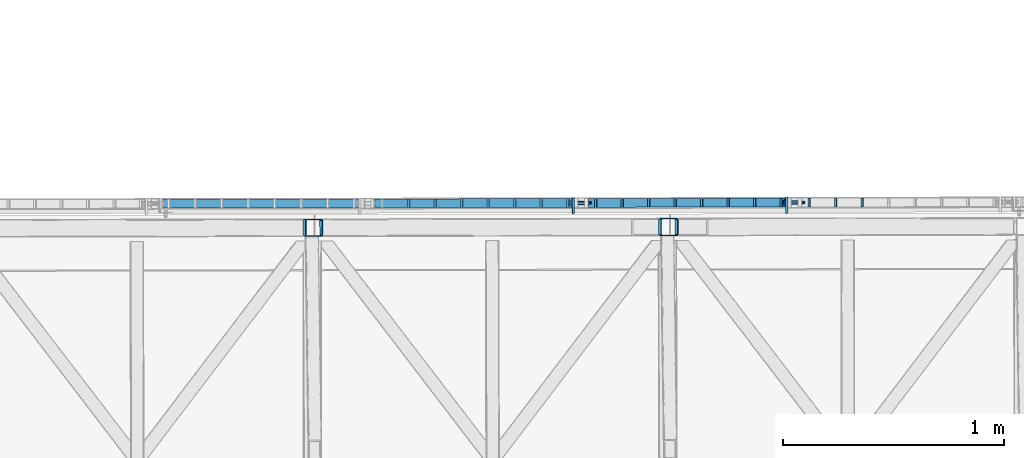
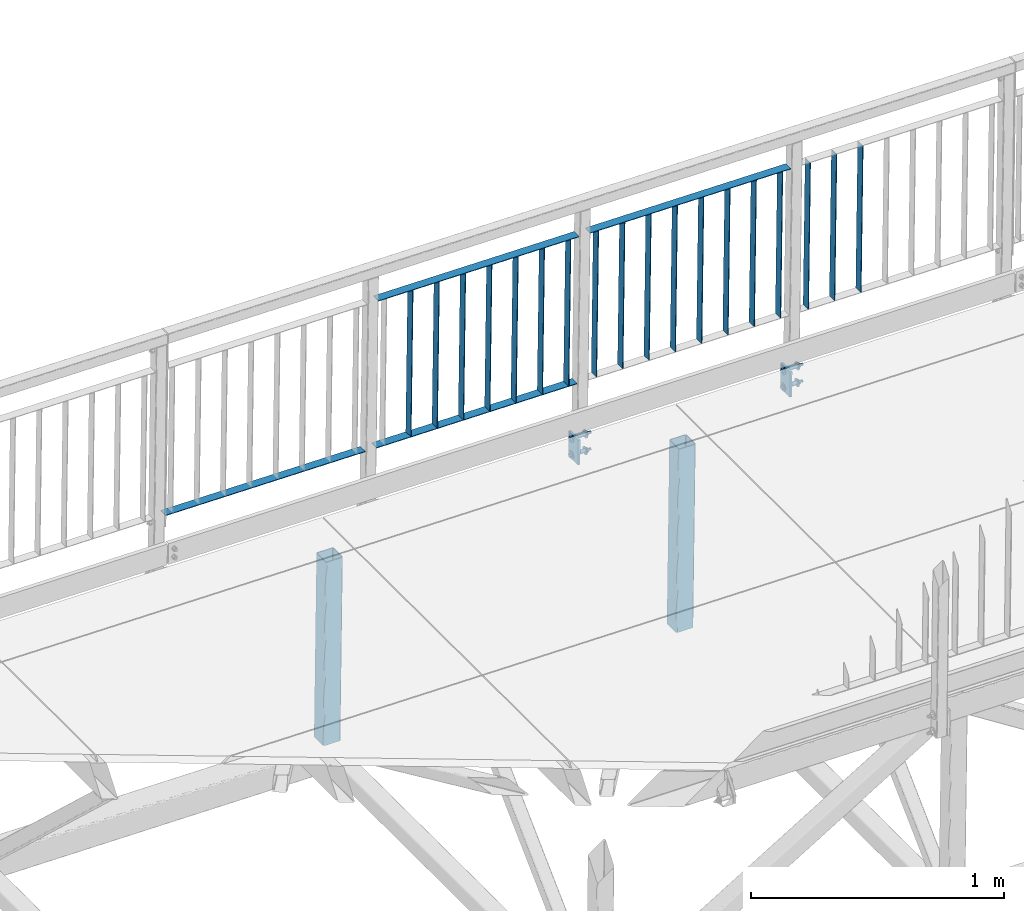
# One storey, part 116 of 169: 26 discrete accessories, 2 mechanical fasteners, 2 elements without a shape of their own.
"""IFC2X3 building model written with IfcOpenShell, lengths in millimetres."""

from ifc_helpers import new_model, si_unit, frame, origin_with_axes, origin_2d_with_axis, place, context, subcontext, project, spatial, polyline, rectangle, hollow_rectangle, circle, outline, extrude, boolean, clip, halfspace, source, transform, mapped, material, type_object, element, aggregate, save


model = new_model("IFC2X3")

# Units and contexts
model_context = context("Model", 3, precision=1e-05, world=origin_with_axes())
body_context = subcontext(model_context, "Body", "Model", "MODEL_VIEW")
ifc_project = project(units=[si_unit("LENGTHUNIT", "METRE", prefix="MILLI"), si_unit("AREAUNIT", "SQUARE_METRE"), si_unit("VOLUMEUNIT", "CUBIC_METRE"), si_unit("MASSUNIT", "GRAM", prefix="KILO"), si_unit("TIMEUNIT", "SECOND"), si_unit("PLANEANGLEUNIT", "RADIAN"), si_unit("SOLIDANGLEUNIT", "STERADIAN"), si_unit("THERMODYNAMICTEMPERATUREUNIT", "DEGREE_CELSIUS"), si_unit("LUMINOUSINTENSITYUNIT", "LUMEN")], contexts=[model_context])

# Site, building, storey
site_placement = place(None, origin_with_axes())
site = spatial("IfcSite", under=ifc_project, at=site_placement, Name="Undefined", CompositionType="ELEMENT")
building_placement = place(site_placement, origin_with_axes())
building = spatial("IfcBuilding", under=site, at=building_placement, Name="Undefined", CompositionType="ELEMENT")
storey_placement = place(building_placement, origin_with_axes())
storey = spatial("IfcBuildingStorey", under=building, at=storey_placement, Name="Undefined", CompositionType="ELEMENT", Elevation=0.0)

# Assembly, discrete accessories
assembly_1_placement = place(storey_placement, origin_with_axes())
assembly_1 = element("IfcElementAssembly", 1, at=assembly_1_placement, inside=storey, Name="Steel Assembly", AssemblyPlace="NOTDEFINED", PredefinedType="RIGID_FRAME")
ifc_material_1 = material(Name="STEEL/S235")
discrete_accessory_type_1 = type_object("IfcDiscreteAccessoryType", Name="BLACHA")
discrete_accessory_1_placement = place(assembly_1_placement, frame((13087.5121205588, 2329.42424205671, 13787.8230552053), z_axis=(0.9999174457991, 0.00186469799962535, -0.0127131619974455), x_axis=(-0.0018648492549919, 0.999998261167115, -4.2996762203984e-08)))
discrete_accessory_1 = element("IfcDiscreteAccessory", 2, at=discrete_accessory_1_placement, type_object=discrete_accessory_type_1, material=ifc_material_1, Name="BLACHA", ObjectType="BL10*120", context=body_context, shape_type="SweptSolid", body=[
    extrude(outline(polyline([(-5.35749222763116e-11, -59.9999999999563), (5.3567816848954e-11, 59.9999999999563), (75.0000002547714, 59.9999999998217), (75.0000002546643, -60.0000000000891), (-5.35749222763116e-11, -59.9999999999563)])), frame((-1.81898926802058e-12, -1.18000176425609e-16, -5.00000000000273), z_axis=(0.0, 0.0, 1.0), x_axis=(1.0, 0.0, 0.0)), (0.0, 0.0, 1.0), 10.0),
])
discrete_accessory_2_placement = place(assembly_1_placement, frame((12120.8974666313, 2327.62164980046, 13800.1127984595), z_axis=(0.9999174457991, 0.00186469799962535, -0.0127131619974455), x_axis=(-0.0018648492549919, 0.999998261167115, -4.2996762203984e-08)))
discrete_accessory_2 = element("IfcDiscreteAccessory", 3, at=discrete_accessory_2_placement, type_object=discrete_accessory_type_1, material=ifc_material_1, Name="BLACHA", ObjectType="BL10*120", context=body_context, shape_type="SweptSolid", body=[
    extrude(outline(polyline([(-5.35749222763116e-11, -59.9999999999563), (5.3567816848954e-11, 59.9999999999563), (75.0000002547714, 59.9999999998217), (75.0000002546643, -60.0000000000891), (-5.35749222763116e-11, -59.9999999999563)])), frame((-1.81898926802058e-12, -1.18000176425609e-16, -5.00000000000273), z_axis=(0.0, 0.0, 1.0), x_axis=(1.0, 0.0, 0.0)), (0.0, 0.0, 1.0), 10.0),
])
ifc_material_2 = material(Name="STEEL/S355")
discrete_accessory_type_2 = type_object("IfcDiscreteAccessoryType", Name="BEAM")
discrete_accessory_3_placement = place(assembly_1_placement, frame((12545.5935196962, 2268.41360533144, 12794.6336153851), z_axis=(-0.999917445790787, -0.00186469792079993, 0.0127131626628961), x_axis=(0.012713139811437, 2.3750999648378e-05, 0.999919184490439)))
discrete_accessory_3 = element("IfcDiscreteAccessory", 4, at=discrete_accessory_3_placement, type_object=discrete_accessory_type_2, material=ifc_material_2, Name="BEAM", ObjectType="K80/4", context=body_context, shape_type="Clipping", body=[
    clip(clip(extrude(hollow_rectangle(XDim=80.0, YDim=80.0, WallThickness=4.0, InnerFilletRadius=4.0, OuterFilletRadius=8.0, at=origin_2d_with_axis()), frame((940.000112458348, 4.54747487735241e-13, 0.0), z_axis=(-1.0, -3.46944695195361e-18, -1.38777878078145e-17), x_axis=(1.73472347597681e-18, -1.0, 0.0)), (0.0, 0.0, 1.0), 880.0), halfspace(frame((940.000112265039, -6.72889655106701e-09, 999.999999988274), z_axis=(-1.0, -3.46944695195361e-18, -1.38777878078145e-17), x_axis=(1.73472347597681e-18, -1.0, 0.0)), True)), halfspace(frame((60.0001122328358, 8.14088707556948e-09, 1000.00000001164), z_axis=(1.0, 0.0, 0.0), x_axis=(0.0, 1.0, 0.0)), True)),
])
discrete_accessory_4_placement = place(assembly_1_placement, frame((10935.7263906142, 2265.41144089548, 12815.1018064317), z_axis=(-0.999917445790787, -0.00186469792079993, 0.0127131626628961), x_axis=(0.012713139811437, 2.3750999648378e-05, 0.999919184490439)))
discrete_accessory_4 = element("IfcDiscreteAccessory", 5, at=discrete_accessory_4_placement, type_object=discrete_accessory_type_2, material=ifc_material_2, Name="BEAM", ObjectType="K80/4", context=body_context, shape_type="Clipping", body=[
    clip(clip(extrude(hollow_rectangle(XDim=80.0, YDim=80.0, WallThickness=4.0, InnerFilletRadius=4.0, OuterFilletRadius=8.0, at=origin_2d_with_axis()), frame((940.000112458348, 4.54747487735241e-13, 0.0), z_axis=(-1.0, -3.46944695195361e-18, -1.38777878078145e-17), x_axis=(1.73472347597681e-18, -1.0, 0.0)), (0.0, 0.0, 1.0), 880.0), halfspace(frame((940.000112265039, -6.72889655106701e-09, 999.999999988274), z_axis=(-1.0, -3.46944695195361e-18, -1.38777878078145e-17), x_axis=(1.73472347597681e-18, -1.0, 0.0)), True)), halfspace(frame((60.0001122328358, 8.14088707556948e-09, 1000.00000001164), z_axis=(1.0, 0.0, 0.0), x_axis=(0.0, 1.0, 0.0)), True)),
])
aggregate(assembly_1, [discrete_accessory_1, discrete_accessory_2, discrete_accessory_3, discrete_accessory_4])

# Assembly, discrete accessories, mechanical fasteners
assembly_2_placement = place(storey_placement, origin_with_axes())
assembly_2 = element("IfcElementAssembly", 6, at=assembly_2_placement, inside=storey, Name="Steel Assembly", AssemblyPlace="NOTDEFINED", PredefinedType="RIGID_FRAME")
discrete_accessory_type_3 = type_object("IfcDiscreteAccessoryType", Name="PORĘCZ")
discrete_accessory_5_placement = place(assembly_2_placement, frame((11197.0909307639, 2375.89901849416, 14826.939116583), z_axis=(-0.012713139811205, -2.37511238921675e-05, -0.999919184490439), x_axis=(0.9999174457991, 0.00186469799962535, -0.0127131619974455)))
discrete_accessory_5 = element("IfcDiscreteAccessory", 7, at=discrete_accessory_5_placement, type_object=discrete_accessory_type_3, material=ifc_material_1, Name="PORĘCZ", ObjectType="BL40*3", context=body_context, shape_type="CSG", body=[
    boolean("DIFFERENCE", boolean("DIFFERENCE", extrude(outline(polyline([(25.4999999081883, 20.0000000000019), (941.194458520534, 20.0000000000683), (941.194458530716, -19.9999999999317), (25.499999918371, -19.9999999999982), (25.4999999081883, 20.0000000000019)])), frame((1.81898940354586e-12, -1.77635442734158e-15, -1.50000000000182), z_axis=(0.0, 0.0, 1.0), x_axis=(1.0, 0.0, 0.0)), (0.0, 0.0, 1.0), 3.0), extrude(rectangle(XDim=51.0, YDim=51.0, at=origin_2d_with_axis()), frame((-5.94487782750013e-08, -4.65977194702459e-09, -139.999999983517), z_axis=(0.0, 0.0, 1.0), x_axis=(1.0, 0.0, 0.0)), (0.0, 0.0, 1.0), 280.0)), extrude(rectangle(XDim=51.0, YDim=51.0, at=origin_2d_with_axis()), frame((966.694458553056, -6.96000839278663e-09, -139.999999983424), z_axis=(0.0, 0.0, 1.0), x_axis=(1.0, 0.0, 0.0)), (0.0, 0.0, 1.0), 280.0)),
])
discrete_accessory_6_placement = place(assembly_2_placement, frame((12163.7055846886, 2377.70161171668, 14814.6493733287), z_axis=(-0.012713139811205, -2.37511238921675e-05, -0.999919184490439), x_axis=(0.9999174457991, 0.00186469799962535, -0.0127131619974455)))
discrete_accessory_6 = element("IfcDiscreteAccessory", 8, at=discrete_accessory_6_placement, type_object=discrete_accessory_type_3, material=ifc_material_1, Name="PORĘCZ", ObjectType="BL40*3", context=body_context, shape_type="CSG", body=[
    boolean("DIFFERENCE", boolean("DIFFERENCE", extrude(outline(polyline([(25.4999999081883, 20.0000000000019), (941.194458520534, 20.0000000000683), (941.194458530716, -19.9999999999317), (25.499999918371, -19.9999999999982), (25.4999999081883, 20.0000000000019)])), frame((1.81898940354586e-12, -1.77635442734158e-15, -1.50000000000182), z_axis=(0.0, 0.0, 1.0), x_axis=(1.0, 0.0, 0.0)), (0.0, 0.0, 1.0), 3.0), extrude(rectangle(XDim=51.0, YDim=51.0, at=origin_2d_with_axis()), frame((-5.94487782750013e-08, -4.65977194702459e-09, -139.999999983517), z_axis=(0.0, 0.0, 1.0), x_axis=(1.0, 0.0, 0.0)), (0.0, 0.0, 1.0), 280.0)), extrude(rectangle(XDim=51.0, YDim=51.0, at=origin_2d_with_axis()), frame((966.694458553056, -6.96000839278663e-09, -139.999999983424), z_axis=(0.0, 0.0, 1.0), x_axis=(1.0, 0.0, 0.0)), (0.0, 0.0, 1.0), 280.0)),
])
discrete_accessory_7_placement = place(assembly_2_placement, frame((11382.2664291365, 2376.2443496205, 14969.5964752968), z_axis=(0.00186484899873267, -0.999998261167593, 4.28757666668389e-08), x_axis=(-0.012713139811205, -2.37511238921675e-05, -0.999919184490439)))
discrete_accessory_7 = element("IfcDiscreteAccessory", 9, at=discrete_accessory_7_placement, type_object=discrete_accessory_type_3, material=ifc_material_1, Name="PORĘCZ", ObjectType="BL40*3", context=body_context, shape_type="Clipping", body=[
    clip(clip(extrude(rectangle(XDim=3.0, YDim=40.0, at=origin_2d_with_axis()), frame((848.500000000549, 1.47191286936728e-15, -8.89750592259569e-16), z_axis=(-1.0, -3.46944695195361e-18, -1.38777878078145e-17), x_axis=(1.73472347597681e-18, -1.0, 0.0)), (0.0, 0.0, 1.0), 702.0), halfspace(frame((848.499999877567, 4.522007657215e-09, 1000.00000000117), z_axis=(-1.0, -3.46944695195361e-18, -1.38777878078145e-17), x_axis=(1.73472347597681e-18, -1.0, 0.0)), True)), halfspace(frame((146.499999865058, 4.97311702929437e-09, 1000.00000000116), z_axis=(1.0, 0.0, 0.0), x_axis=(0.0, 1.0, 0.0)), True)),
])
discrete_accessory_8_placement = place(assembly_2_placement, frame((11502.2565226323, 2376.46811338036, 14968.0708958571), z_axis=(0.00186484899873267, -0.999998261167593, 4.28757666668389e-08), x_axis=(-0.012713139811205, -2.37511238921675e-05, -0.999919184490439)))
discrete_accessory_8 = element("IfcDiscreteAccessory", 10, at=discrete_accessory_8_placement, type_object=discrete_accessory_type_3, material=ifc_material_1, Name="PORĘCZ", ObjectType="BL40*3", context=body_context, shape_type="Clipping", body=[
    clip(clip(extrude(rectangle(XDim=3.0, YDim=40.0, at=origin_2d_with_axis()), frame((848.500000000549, 1.47191286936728e-15, -8.89750592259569e-16), z_axis=(-1.0, -3.46944695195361e-18, -1.38777878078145e-17), x_axis=(1.73472347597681e-18, -1.0, 0.0)), (0.0, 0.0, 1.0), 702.0), halfspace(frame((848.499999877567, 4.522007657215e-09, 1000.00000000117), z_axis=(-1.0, -3.46944695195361e-18, -1.38777878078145e-17), x_axis=(1.73472347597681e-18, -1.0, 0.0)), True)), halfspace(frame((146.499999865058, 4.97311702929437e-09, 1000.00000000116), z_axis=(1.0, 0.0, 0.0), x_axis=(0.0, 1.0, 0.0)), True)),
])
discrete_accessory_9_placement = place(assembly_2_placement, frame((11622.2466161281, 2376.69187714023, 14966.5453164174), z_axis=(0.00186484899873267, -0.999998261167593, 4.28757666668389e-08), x_axis=(-0.012713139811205, -2.37511238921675e-05, -0.999919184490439)))
discrete_accessory_9 = element("IfcDiscreteAccessory", 11, at=discrete_accessory_9_placement, type_object=discrete_accessory_type_3, material=ifc_material_1, Name="PORĘCZ", ObjectType="BL40*3", context=body_context, shape_type="Clipping", body=[
    clip(clip(extrude(rectangle(XDim=3.0, YDim=40.0, at=origin_2d_with_axis()), frame((848.500000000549, 1.47191286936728e-15, -8.89750592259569e-16), z_axis=(-1.0, -3.46944695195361e-18, -1.38777878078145e-17), x_axis=(1.73472347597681e-18, -1.0, 0.0)), (0.0, 0.0, 1.0), 702.0), halfspace(frame((848.499999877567, 4.522007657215e-09, 1000.00000000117), z_axis=(-1.0, -3.46944695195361e-18, -1.38777878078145e-17), x_axis=(1.73472347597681e-18, -1.0, 0.0)), True)), halfspace(frame((146.499999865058, 4.97311702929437e-09, 1000.00000000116), z_axis=(1.0, 0.0, 0.0), x_axis=(0.0, 1.0, 0.0)), True)),
])
discrete_accessory_10_placement = place(assembly_2_placement, frame((11742.236709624, 2376.91564090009, 14965.0197369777), z_axis=(0.00186484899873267, -0.999998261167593, 4.28757666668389e-08), x_axis=(-0.012713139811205, -2.37511238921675e-05, -0.999919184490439)))
discrete_accessory_10 = element("IfcDiscreteAccessory", 12, at=discrete_accessory_10_placement, type_object=discrete_accessory_type_3, material=ifc_material_1, Name="PORĘCZ", ObjectType="BL40*3", context=body_context, shape_type="Clipping", body=[
    clip(clip(extrude(rectangle(XDim=3.0, YDim=40.0, at=origin_2d_with_axis()), frame((848.500000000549, 1.47191286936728e-15, -8.89750592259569e-16), z_axis=(-1.0, -3.46944695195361e-18, -1.38777878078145e-17), x_axis=(1.73472347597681e-18, -1.0, 0.0)), (0.0, 0.0, 1.0), 702.0), halfspace(frame((848.499999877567, 4.522007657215e-09, 1000.00000000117), z_axis=(-1.0, -3.46944695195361e-18, -1.38777878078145e-17), x_axis=(1.73472347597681e-18, -1.0, 0.0)), True)), halfspace(frame((146.499999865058, 4.97311702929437e-09, 1000.00000000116), z_axis=(1.0, 0.0, 0.0), x_axis=(0.0, 1.0, 0.0)), True)),
])
discrete_accessory_11_placement = place(assembly_2_placement, frame((11862.2268031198, 2377.13940465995, 14963.494157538), z_axis=(0.00186484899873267, -0.999998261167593, 4.28757666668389e-08), x_axis=(-0.012713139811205, -2.37511238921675e-05, -0.999919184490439)))
discrete_accessory_11 = element("IfcDiscreteAccessory", 13, at=discrete_accessory_11_placement, type_object=discrete_accessory_type_3, material=ifc_material_1, Name="PORĘCZ", ObjectType="BL40*3", context=body_context, shape_type="Clipping", body=[
    clip(clip(extrude(rectangle(XDim=3.0, YDim=40.0, at=origin_2d_with_axis()), frame((848.500000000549, 1.47191286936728e-15, -8.89750592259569e-16), z_axis=(-1.0, -3.46944695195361e-18, -1.38777878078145e-17), x_axis=(1.73472347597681e-18, -1.0, 0.0)), (0.0, 0.0, 1.0), 702.0), halfspace(frame((848.499999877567, 4.522007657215e-09, 1000.00000000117), z_axis=(-1.0, -3.46944695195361e-18, -1.38777878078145e-17), x_axis=(1.73472347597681e-18, -1.0, 0.0)), True)), halfspace(frame((146.499999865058, 4.97311702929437e-09, 1000.00000000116), z_axis=(1.0, 0.0, 0.0), x_axis=(0.0, 1.0, 0.0)), True)),
])
discrete_accessory_12_placement = place(assembly_2_placement, frame((11982.2168966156, 2377.36316841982, 14961.9685780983), z_axis=(0.00186484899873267, -0.999998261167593, 4.28757666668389e-08), x_axis=(-0.012713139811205, -2.37511238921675e-05, -0.999919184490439)))
discrete_accessory_12 = element("IfcDiscreteAccessory", 14, at=discrete_accessory_12_placement, type_object=discrete_accessory_type_3, material=ifc_material_1, Name="PORĘCZ", ObjectType="BL40*3", context=body_context, shape_type="Clipping", body=[
    clip(clip(extrude(rectangle(XDim=3.0, YDim=40.0, at=origin_2d_with_axis()), frame((848.500000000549, 1.47191286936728e-15, -8.89750592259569e-16), z_axis=(-1.0, -3.46944695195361e-18, -1.38777878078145e-17), x_axis=(1.73472347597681e-18, -1.0, 0.0)), (0.0, 0.0, 1.0), 702.0), halfspace(frame((848.499999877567, 4.522007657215e-09, 1000.00000000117), z_axis=(-1.0, -3.46944695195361e-18, -1.38777878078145e-17), x_axis=(1.73472347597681e-18, -1.0, 0.0)), True)), halfspace(frame((146.499999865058, 4.97311702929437e-09, 1000.00000000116), z_axis=(1.0, 0.0, 0.0), x_axis=(0.0, 1.0, 0.0)), True)),
])
discrete_accessory_13_placement = place(assembly_2_placement, frame((12102.2069901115, 2377.58693217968, 14960.4429986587), z_axis=(0.00186484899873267, -0.999998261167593, 4.28757666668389e-08), x_axis=(-0.012713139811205, -2.37511238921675e-05, -0.999919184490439)))
discrete_accessory_13 = element("IfcDiscreteAccessory", 15, at=discrete_accessory_13_placement, type_object=discrete_accessory_type_3, material=ifc_material_1, Name="PORĘCZ", ObjectType="BL40*3", context=body_context, shape_type="Clipping", body=[
    clip(clip(extrude(rectangle(XDim=3.0, YDim=40.0, at=origin_2d_with_axis()), frame((848.500000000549, 1.47191286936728e-15, -8.89750592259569e-16), z_axis=(-1.0, -3.46944695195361e-18, -1.38777878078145e-17), x_axis=(1.73472347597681e-18, -1.0, 0.0)), (0.0, 0.0, 1.0), 702.0), halfspace(frame((848.499999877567, 4.522007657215e-09, 1000.00000000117), z_axis=(-1.0, -3.46944695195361e-18, -1.38777878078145e-17), x_axis=(1.73472347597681e-18, -1.0, 0.0)), True)), halfspace(frame((146.499999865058, 4.97311702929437e-09, 1000.00000000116), z_axis=(1.0, 0.0, 0.0), x_axis=(0.0, 1.0, 0.0)), True)),
])
discrete_accessory_14_placement = place(assembly_2_placement, frame((12228.890989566, 2377.82317908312, 14958.8323114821), z_axis=(0.00186484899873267, -0.999998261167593, 4.28757666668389e-08), x_axis=(-0.012713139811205, -2.37511238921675e-05, -0.999919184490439)))
discrete_accessory_14 = element("IfcDiscreteAccessory", 16, at=discrete_accessory_14_placement, type_object=discrete_accessory_type_3, material=ifc_material_1, Name="PORĘCZ", ObjectType="BL40*3", context=body_context, shape_type="Clipping", body=[
    clip(clip(extrude(rectangle(XDim=3.0, YDim=40.0, at=origin_2d_with_axis()), frame((848.500000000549, 1.47191286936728e-15, -8.89750592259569e-16), z_axis=(-1.0, -3.46944695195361e-18, -1.38777878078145e-17), x_axis=(1.73472347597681e-18, -1.0, 0.0)), (0.0, 0.0, 1.0), 702.0), halfspace(frame((848.499999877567, 4.522007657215e-09, 1000.00000000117), z_axis=(-1.0, -3.46944695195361e-18, -1.38777878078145e-17), x_axis=(1.73472347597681e-18, -1.0, 0.0)), True)), halfspace(frame((146.499999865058, 4.97311702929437e-09, 1000.00000000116), z_axis=(1.0, 0.0, 0.0), x_axis=(0.0, 1.0, 0.0)), True)),
])
discrete_accessory_15_placement = place(assembly_2_placement, frame((12348.8810830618, 2378.04694284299, 14957.3067320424), z_axis=(0.00186484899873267, -0.999998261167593, 4.28757666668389e-08), x_axis=(-0.012713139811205, -2.37511238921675e-05, -0.999919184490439)))
discrete_accessory_15 = element("IfcDiscreteAccessory", 17, at=discrete_accessory_15_placement, type_object=discrete_accessory_type_3, material=ifc_material_1, Name="PORĘCZ", ObjectType="BL40*3", context=body_context, shape_type="Clipping", body=[
    clip(clip(extrude(rectangle(XDim=3.0, YDim=40.0, at=origin_2d_with_axis()), frame((848.500000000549, 1.47191286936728e-15, -8.89750592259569e-16), z_axis=(-1.0, -3.46944695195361e-18, -1.38777878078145e-17), x_axis=(1.73472347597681e-18, -1.0, 0.0)), (0.0, 0.0, 1.0), 702.0), halfspace(frame((848.499999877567, 4.522007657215e-09, 1000.00000000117), z_axis=(-1.0, -3.46944695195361e-18, -1.38777878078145e-17), x_axis=(1.73472347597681e-18, -1.0, 0.0)), True)), halfspace(frame((146.499999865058, 4.97311702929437e-09, 1000.00000000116), z_axis=(1.0, 0.0, 0.0), x_axis=(0.0, 1.0, 0.0)), True)),
])
discrete_accessory_16_placement = place(assembly_2_placement, frame((12468.8711765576, 2378.27070660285, 14955.7811526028), z_axis=(0.00186484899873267, -0.999998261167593, 4.28757666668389e-08), x_axis=(-0.012713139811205, -2.37511238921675e-05, -0.999919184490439)))
discrete_accessory_16 = element("IfcDiscreteAccessory", 18, at=discrete_accessory_16_placement, type_object=discrete_accessory_type_3, material=ifc_material_1, Name="PORĘCZ", ObjectType="BL40*3", context=body_context, shape_type="Clipping", body=[
    clip(clip(extrude(rectangle(XDim=3.0, YDim=40.0, at=origin_2d_with_axis()), frame((848.500000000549, 1.47191286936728e-15, -8.89750592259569e-16), z_axis=(-1.0, -3.46944695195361e-18, -1.38777878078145e-17), x_axis=(1.73472347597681e-18, -1.0, 0.0)), (0.0, 0.0, 1.0), 702.0), halfspace(frame((848.499999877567, 4.522007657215e-09, 1000.00000000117), z_axis=(-1.0, -3.46944695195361e-18, -1.38777878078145e-17), x_axis=(1.73472347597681e-18, -1.0, 0.0)), True)), halfspace(frame((146.499999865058, 4.97311702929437e-09, 1000.00000000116), z_axis=(1.0, 0.0, 0.0), x_axis=(0.0, 1.0, 0.0)), True)),
])
discrete_accessory_17_placement = place(assembly_2_placement, frame((12588.8612700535, 2378.49447036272, 14954.2555731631), z_axis=(0.00186484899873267, -0.999998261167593, 4.28757666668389e-08), x_axis=(-0.012713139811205, -2.37511238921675e-05, -0.999919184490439)))
discrete_accessory_17 = element("IfcDiscreteAccessory", 19, at=discrete_accessory_17_placement, type_object=discrete_accessory_type_3, material=ifc_material_1, Name="PORĘCZ", ObjectType="BL40*3", context=body_context, shape_type="Clipping", body=[
    clip(clip(extrude(rectangle(XDim=3.0, YDim=40.0, at=origin_2d_with_axis()), frame((848.500000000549, 1.47191286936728e-15, -8.89750592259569e-16), z_axis=(-1.0, -3.46944695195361e-18, -1.38777878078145e-17), x_axis=(1.73472347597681e-18, -1.0, 0.0)), (0.0, 0.0, 1.0), 702.0), halfspace(frame((848.499999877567, 4.522007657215e-09, 1000.00000000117), z_axis=(-1.0, -3.46944695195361e-18, -1.38777878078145e-17), x_axis=(1.73472347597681e-18, -1.0, 0.0)), True)), halfspace(frame((146.499999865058, 4.97311702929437e-09, 1000.00000000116), z_axis=(1.0, 0.0, 0.0), x_axis=(0.0, 1.0, 0.0)), True)),
])
discrete_accessory_18_placement = place(assembly_2_placement, frame((12708.8513635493, 2378.71823412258, 14952.7299937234), z_axis=(0.00186484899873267, -0.999998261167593, 4.28757666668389e-08), x_axis=(-0.012713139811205, -2.37511238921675e-05, -0.999919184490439)))
discrete_accessory_18 = element("IfcDiscreteAccessory", 20, at=discrete_accessory_18_placement, type_object=discrete_accessory_type_3, material=ifc_material_1, Name="PORĘCZ", ObjectType="BL40*3", context=body_context, shape_type="Clipping", body=[
    clip(clip(extrude(rectangle(XDim=3.0, YDim=40.0, at=origin_2d_with_axis()), frame((848.500000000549, 1.47191286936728e-15, -8.89750592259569e-16), z_axis=(-1.0, -3.46944695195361e-18, -1.38777878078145e-17), x_axis=(1.73472347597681e-18, -1.0, 0.0)), (0.0, 0.0, 1.0), 702.0), halfspace(frame((848.499999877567, 4.522007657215e-09, 1000.00000000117), z_axis=(-1.0, -3.46944695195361e-18, -1.38777878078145e-17), x_axis=(1.73472347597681e-18, -1.0, 0.0)), True)), halfspace(frame((146.499999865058, 4.97311702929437e-09, 1000.00000000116), z_axis=(1.0, 0.0, 0.0), x_axis=(0.0, 1.0, 0.0)), True)),
])
discrete_accessory_19_placement = place(assembly_2_placement, frame((12828.8414570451, 2378.94199788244, 14951.2044142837), z_axis=(0.00186484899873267, -0.999998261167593, 4.28757666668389e-08), x_axis=(-0.012713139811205, -2.37511238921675e-05, -0.999919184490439)))
discrete_accessory_19 = element("IfcDiscreteAccessory", 21, at=discrete_accessory_19_placement, type_object=discrete_accessory_type_3, material=ifc_material_1, Name="PORĘCZ", ObjectType="BL40*3", context=body_context, shape_type="Clipping", body=[
    clip(clip(extrude(rectangle(XDim=3.0, YDim=40.0, at=origin_2d_with_axis()), frame((848.500000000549, 1.47191286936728e-15, -8.89750592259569e-16), z_axis=(-1.0, -3.46944695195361e-18, -1.38777878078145e-17), x_axis=(1.73472347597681e-18, -1.0, 0.0)), (0.0, 0.0, 1.0), 702.0), halfspace(frame((848.499999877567, 4.522007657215e-09, 1000.00000000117), z_axis=(-1.0, -3.46944695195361e-18, -1.38777878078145e-17), x_axis=(1.73472347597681e-18, -1.0, 0.0)), True)), halfspace(frame((146.499999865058, 4.97311702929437e-09, 1000.00000000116), z_axis=(1.0, 0.0, 0.0), x_axis=(0.0, 1.0, 0.0)), True)),
])
discrete_accessory_20_placement = place(assembly_2_placement, frame((12948.8315505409, 2379.16576164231, 14949.678834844), z_axis=(0.00186484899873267, -0.999998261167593, 4.28757666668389e-08), x_axis=(-0.012713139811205, -2.37511238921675e-05, -0.999919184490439)))
discrete_accessory_20 = element("IfcDiscreteAccessory", 22, at=discrete_accessory_20_placement, type_object=discrete_accessory_type_3, material=ifc_material_1, Name="PORĘCZ", ObjectType="BL40*3", context=body_context, shape_type="Clipping", body=[
    clip(clip(extrude(rectangle(XDim=3.0, YDim=40.0, at=origin_2d_with_axis()), frame((848.500000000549, 1.47191286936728e-15, -8.89750592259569e-16), z_axis=(-1.0, -3.46944695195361e-18, -1.38777878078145e-17), x_axis=(1.73472347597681e-18, -1.0, 0.0)), (0.0, 0.0, 1.0), 702.0), halfspace(frame((848.499999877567, 4.522007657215e-09, 1000.00000000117), z_axis=(-1.0, -3.46944695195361e-18, -1.38777878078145e-17), x_axis=(1.73472347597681e-18, -1.0, 0.0)), True)), halfspace(frame((146.499999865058, 4.97311702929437e-09, 1000.00000000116), z_axis=(1.0, 0.0, 0.0), x_axis=(0.0, 1.0, 0.0)), True)),
])
discrete_accessory_21_placement = place(assembly_2_placement, frame((13068.8216440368, 2379.38952540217, 14948.1532554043), z_axis=(0.00186484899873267, -0.999998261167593, 4.28757666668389e-08), x_axis=(-0.012713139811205, -2.37511238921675e-05, -0.999919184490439)))
discrete_accessory_21 = element("IfcDiscreteAccessory", 23, at=discrete_accessory_21_placement, type_object=discrete_accessory_type_3, material=ifc_material_1, Name="PORĘCZ", ObjectType="BL40*3", context=body_context, shape_type="Clipping", body=[
    clip(clip(extrude(rectangle(XDim=3.0, YDim=40.0, at=origin_2d_with_axis()), frame((848.500000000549, 1.47191286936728e-15, -8.89750592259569e-16), z_axis=(-1.0, -3.46944695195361e-18, -1.38777878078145e-17), x_axis=(1.73472347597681e-18, -1.0, 0.0)), (0.0, 0.0, 1.0), 702.0), halfspace(frame((848.499999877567, 4.522007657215e-09, 1000.00000000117), z_axis=(-1.0, -3.46944695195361e-18, -1.38777878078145e-17), x_axis=(1.73472347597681e-18, -1.0, 0.0)), True)), halfspace(frame((146.499999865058, 4.97311702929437e-09, 1000.00000000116), z_axis=(1.0, 0.0, 0.0), x_axis=(0.0, 1.0, 0.0)), True)),
])
discrete_accessory_22_placement = place(assembly_2_placement, frame((13195.5056434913, 2379.62577230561, 14946.5425682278), z_axis=(0.00186484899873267, -0.999998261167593, 4.28757666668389e-08), x_axis=(-0.012713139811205, -2.37511238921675e-05, -0.999919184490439)))
discrete_accessory_22 = element("IfcDiscreteAccessory", 24, at=discrete_accessory_22_placement, type_object=discrete_accessory_type_3, material=ifc_material_1, Name="PORĘCZ", ObjectType="BL40*3", context=body_context, shape_type="Clipping", body=[
    clip(clip(extrude(rectangle(XDim=3.0, YDim=40.0, at=origin_2d_with_axis()), frame((848.500000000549, 1.47191286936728e-15, -8.89750592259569e-16), z_axis=(-1.0, -3.46944695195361e-18, -1.38777878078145e-17), x_axis=(1.73472347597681e-18, -1.0, 0.0)), (0.0, 0.0, 1.0), 702.0), halfspace(frame((848.499999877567, 4.522007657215e-09, 1000.00000000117), z_axis=(-1.0, -3.46944695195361e-18, -1.38777878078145e-17), x_axis=(1.73472347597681e-18, -1.0, 0.0)), True)), halfspace(frame((146.499999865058, 4.97311702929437e-09, 1000.00000000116), z_axis=(1.0, 0.0, 0.0), x_axis=(0.0, 1.0, 0.0)), True)),
])
discrete_accessory_23_placement = place(assembly_2_placement, frame((13315.4957369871, 2379.84953606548, 14945.0169887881), z_axis=(0.00186484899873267, -0.999998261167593, 4.28757666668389e-08), x_axis=(-0.012713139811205, -2.37511238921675e-05, -0.999919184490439)))
discrete_accessory_23 = element("IfcDiscreteAccessory", 25, at=discrete_accessory_23_placement, type_object=discrete_accessory_type_3, material=ifc_material_1, Name="PORĘCZ", ObjectType="BL40*3", context=body_context, shape_type="Clipping", body=[
    clip(clip(extrude(rectangle(XDim=3.0, YDim=40.0, at=origin_2d_with_axis()), frame((848.500000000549, 1.47191286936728e-15, -8.89750592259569e-16), z_axis=(-1.0, -3.46944695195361e-18, -1.38777878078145e-17), x_axis=(1.73472347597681e-18, -1.0, 0.0)), (0.0, 0.0, 1.0), 702.0), halfspace(frame((848.499999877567, 4.522007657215e-09, 1000.00000000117), z_axis=(-1.0, -3.46944695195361e-18, -1.38777878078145e-17), x_axis=(1.73472347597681e-18, -1.0, 0.0)), True)), halfspace(frame((146.499999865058, 4.97311702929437e-09, 1000.00000000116), z_axis=(1.0, 0.0, 0.0), x_axis=(0.0, 1.0, 0.0)), True)),
])
discrete_accessory_24_placement = place(assembly_2_placement, frame((13435.4858304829, 2380.07329982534, 14943.4914093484), z_axis=(0.00186484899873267, -0.999998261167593, 4.28757666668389e-08), x_axis=(-0.012713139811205, -2.37511238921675e-05, -0.999919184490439)))
discrete_accessory_24 = element("IfcDiscreteAccessory", 26, at=discrete_accessory_24_placement, type_object=discrete_accessory_type_3, material=ifc_material_1, Name="PORĘCZ", ObjectType="BL40*3", context=body_context, shape_type="Clipping", body=[
    clip(clip(extrude(rectangle(XDim=3.0, YDim=40.0, at=origin_2d_with_axis()), frame((848.500000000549, 1.47191286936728e-15, -8.89750592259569e-16), z_axis=(-1.0, -3.46944695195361e-18, -1.38777878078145e-17), x_axis=(1.73472347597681e-18, -1.0, 0.0)), (0.0, 0.0, 1.0), 702.0), halfspace(frame((848.499999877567, 4.522007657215e-09, 1000.00000000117), z_axis=(-1.0, -3.46944695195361e-18, -1.38777878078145e-17), x_axis=(1.73472347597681e-18, -1.0, 0.0)), True)), halfspace(frame((146.499999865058, 4.97311702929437e-09, 1000.00000000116), z_axis=(1.0, 0.0, 0.0), x_axis=(0.0, 1.0, 0.0)), True)),
])
discrete_accessory_25_placement = place(assembly_2_placement, frame((10221.5135132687, 2374.07968073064, 14134.2858347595), z_axis=(-0.012713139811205, -2.37511238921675e-05, -0.999919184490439), x_axis=(0.9999174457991, 0.00186469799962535, -0.0127131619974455)))
discrete_accessory_25 = element("IfcDiscreteAccessory", 27, at=discrete_accessory_25_placement, type_object=discrete_accessory_type_3, material=ifc_material_1, Name="PORĘCZ", ObjectType="BL40*3", context=body_context, shape_type="CSG", body=[
    boolean("DIFFERENCE", boolean("DIFFERENCE", boolean("DIFFERENCE", extrude(outline(polyline([(29.999999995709, 20.0000000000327), (941.194458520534, 20.0000000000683), (941.194458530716, -19.9999999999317), (29.9999999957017, -20.0000000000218), (29.999999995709, 20.0000000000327)])), frame((1.81898940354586e-12, -1.77635442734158e-15, -1.50000000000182), z_axis=(0.0, 0.0, 1.0), x_axis=(1.0, 0.0, 0.0)), (0.0, 0.0, 1.0), 3.0), extrude(rectangle(XDim=51.0, YDim=51.0, at=origin_2d_with_axis()), frame((-5.94487782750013e-08, -4.65977194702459e-09, -139.999999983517), z_axis=(0.0, 0.0, 1.0), x_axis=(1.0, 0.0, 0.0)), (0.0, 0.0, 1.0), 280.0)), extrude(rectangle(XDim=51.0, YDim=51.0, at=origin_2d_with_axis()), frame((966.694458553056, -6.96000839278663e-09, -139.999999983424), z_axis=(0.0, 0.0, 1.0), x_axis=(1.0, 0.0, 0.0)), (0.0, 0.0, 1.0), 280.0)), halfspace(frame((29.9999999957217, 999.999999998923, 0.0), z_axis=(1.0, 0.0, 0.0), x_axis=(-2.54700353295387e-10, 0.0, -1.0)), True)),
])
discrete_accessory_26_placement = place(assembly_2_placement, frame((11188.1281671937, 2375.88227395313, 14121.9960915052), z_axis=(-0.012713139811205, -2.37511238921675e-05, -0.999919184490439), x_axis=(0.9999174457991, 0.00186469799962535, -0.0127131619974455)))
discrete_accessory_26 = element("IfcDiscreteAccessory", 28, at=discrete_accessory_26_placement, type_object=discrete_accessory_type_3, material=ifc_material_1, Name="PORĘCZ", ObjectType="BL40*3", context=body_context, shape_type="CSG", body=[
    boolean("DIFFERENCE", boolean("DIFFERENCE", extrude(outline(polyline([(25.4999999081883, 20.0000000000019), (941.194458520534, 20.0000000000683), (941.194458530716, -19.9999999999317), (25.499999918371, -19.9999999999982), (25.4999999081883, 20.0000000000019)])), frame((1.81898940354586e-12, -1.77635442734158e-15, -1.50000000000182), z_axis=(0.0, 0.0, 1.0), x_axis=(1.0, 0.0, 0.0)), (0.0, 0.0, 1.0), 3.0), extrude(rectangle(XDim=51.0, YDim=51.0, at=origin_2d_with_axis()), frame((-5.94487782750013e-08, -4.65977194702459e-09, -139.999999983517), z_axis=(0.0, 0.0, 1.0), x_axis=(1.0, 0.0, 0.0)), (0.0, 0.0, 1.0), 280.0)), extrude(rectangle(XDim=51.0, YDim=51.0, at=origin_2d_with_axis()), frame((966.694458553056, -6.96000839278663e-09, -139.999999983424), z_axis=(0.0, 0.0, 1.0), x_axis=(1.0, 0.0, 0.0)), (0.0, 0.0, 1.0), 280.0)),
])
ifc_material_3 = material(Name="Undefined")
discrete_accessory_type_4 = type_object("IfcDiscreteAccessoryType", Name="Bolt assembly")
shared_shape = source(origin_with_axes(), body_context, "Body", "SweptSolid", [
    extrude(circle(Radius=9.0, at=origin_2d_with_axis()), frame((0.0, -4.90000000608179, 0.0), z_axis=(0.0, 1.0, 0.0), x_axis=(1.0, 0.0, 0.0)), (0.0, 0.0, 1.0), 10.0),
    extrude(circle(Radius=9.0, at=origin_2d_with_axis()), frame((0.0, 4.89999999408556, 0.0), z_axis=(0.0, 1.0, 0.0), x_axis=(1.0, 0.0, 0.0)), (0.0, 0.0, 1.0), 50.1),
    extrude(outline(polyline([(10.39230484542, 0.0), (5.19615242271, 9.00000000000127), (-5.19615242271, 9.00000000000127), (-10.39230484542, 0.0), (-5.19615242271, -9.00000000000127), (5.19615242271, -9.00000000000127), (10.39230484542, 0.0)])), frame((0.0, -15.5000000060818, 0.0), z_axis=(0.0, 1.0, 0.0), x_axis=(1.0, 0.0, 0.0)), (0.0, 0.0, 1.0), 7.5),
    extrude(circle(Radius=6.0, at=origin_2d_with_axis()), frame((0.0, -8.00000000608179, 0.0), z_axis=(0.0, 1.0, 0.0), x_axis=(1.0, 0.0, 0.0)), (0.0, 0.0, 1.0), 90.0),
    extrude(circle(Radius=18.5, at=origin_2d_with_axis()), frame((0.0, -8.00000000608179, 0.0), z_axis=(0.0, 1.0, 0.0), x_axis=(1.0, 0.0, 0.0)), (0.0, 0.0, 1.0), 3.0),
    extrude(circle(Radius=18.5, at=origin_2d_with_axis()), frame((0.0, 54.9999999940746, 0.0), z_axis=(0.0, 1.0, 0.0), x_axis=(1.0, 0.0, 0.0)), (0.0, 0.0, 1.0), 3.0),
    extrude(outline(polyline([(10.96965511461, 0.0), (5.484827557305, 9.50000000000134), (-5.484827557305, 9.50000000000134), (-10.96965511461, 0.0), (-5.484827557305, -9.50000000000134), (5.484827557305, -9.50000000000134), (10.96965511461, 0.0)])), frame((0.0, 57.9999999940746, 0.0), z_axis=(0.0, 1.0, 0.0), x_axis=(1.0, 0.0, 0.0)), (0.0, 0.0, 1.0), 10.0),
])
mechanical_fastener_1_placement = place(assembly_2_placement, frame((13087.4252346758, 2379.42416864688, 13788.3230126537), z_axis=(0.012712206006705, 0.000523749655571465, 0.999919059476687), x_axis=(0.00187120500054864, -0.999998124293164, 0.00050000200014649)))
mechanical_fastener_1 = element("IfcMechanicalFastener", 29, at=mechanical_fastener_1_placement, type_object=discrete_accessory_type_4, material=ifc_material_3, Name="Bolt assembly", NominalDiameter=12.0, NominalLength=90.0, context=body_context, shape_type="MappedRepresentation", body=[
    mapped(shared_shape, transform((-1.15463194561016e-14, 5.45696821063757e-11, -39.9999999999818))),
    mapped(shared_shape, transform((8.88178419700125e-15, -5.54791768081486e-11, 39.99999999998))),
])
mechanical_fastener_2_placement = place(assembly_2_placement, frame((12120.8105807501, 2377.62157542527, 13800.612755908), z_axis=(0.012712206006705, 0.000523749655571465, 0.999919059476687), x_axis=(0.00187120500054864, -0.999998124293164, 0.00050000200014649)))
mechanical_fastener_2 = element("IfcMechanicalFastener", 30, at=mechanical_fastener_2_placement, type_object=discrete_accessory_type_4, material=ifc_material_3, Name="Bolt assembly", NominalDiameter=12.0, NominalLength=90.0, context=body_context, shape_type="MappedRepresentation", body=[
    mapped(shared_shape, transform((-1.15463194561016e-14, 5.45696821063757e-11, -39.9999999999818))),
    mapped(shared_shape, transform((8.88178419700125e-15, -5.54791768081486e-11, 39.99999999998))),
])
aggregate(assembly_2, [mechanical_fastener_1, mechanical_fastener_2, discrete_accessory_5, discrete_accessory_6, discrete_accessory_7, discrete_accessory_8, discrete_accessory_9, discrete_accessory_10, discrete_accessory_11, discrete_accessory_12, discrete_accessory_13, discrete_accessory_14, discrete_accessory_15, discrete_accessory_16, discrete_accessory_17, discrete_accessory_18, discrete_accessory_19, discrete_accessory_20, discrete_accessory_21, discrete_accessory_22, discrete_accessory_23, discrete_accessory_24, discrete_accessory_25, discrete_accessory_26])

save(model, "model.ifc")
